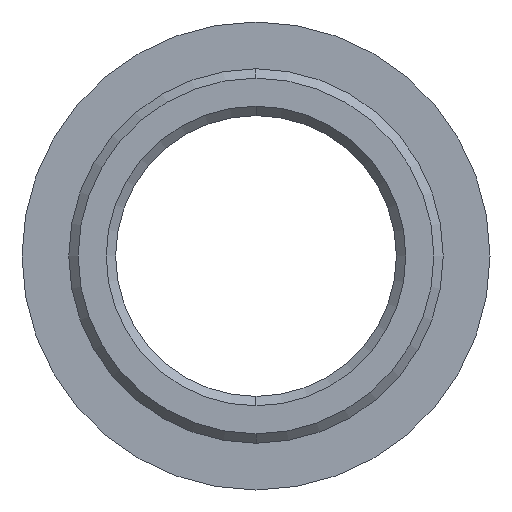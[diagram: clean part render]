
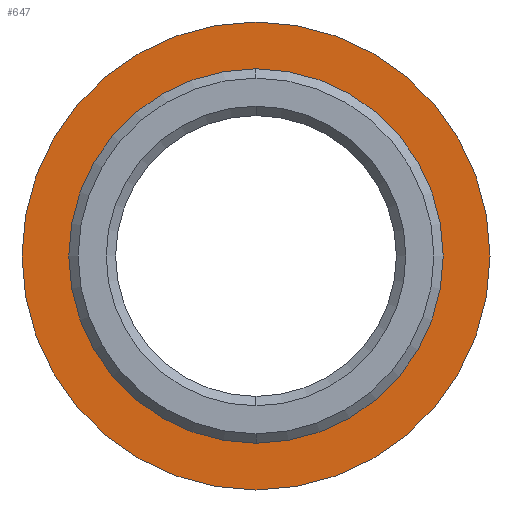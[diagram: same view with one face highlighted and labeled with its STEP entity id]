
A CAD part, left-side view. The second image highlights one B-rep face of the part: STEP entity #647.
In plain terms, the highlighted planar face has unit normal (-1, 0, 0).
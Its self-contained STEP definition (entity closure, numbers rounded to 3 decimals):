
#5 = ORIENTED_EDGE ( 'NONE', *, *, #581, .T. ) ;
#12 = EDGE_LOOP ( 'NONE', ( #21, #5 ) ) ;
#21 = ORIENTED_EDGE ( 'NONE', *, *, #641, .T. ) ;
#37 = VERTEX_POINT ( 'NONE', #206 ) ;
#73 = EDGE_LOOP ( 'NONE', ( #127, #139 ) ) ;
#78 = VERTEX_POINT ( 'NONE', #332 ) ;
#114 = VERTEX_POINT ( 'NONE', #420 ) ;
#127 = ORIENTED_EDGE ( 'NONE', *, *, #571, .F. ) ;
#139 = ORIENTED_EDGE ( 'NONE', *, *, #618, .F. ) ;
#153 = VERTEX_POINT ( 'NONE', #491 ) ;
#195 = CARTESIAN_POINT ( 'NONE',  ( 9., 0., 0. ) ) ;
#199 = DIRECTION ( 'NONE',  ( -1., 0., 0. ) ) ;
#201 = DIRECTION ( 'NONE',  ( 0., 0., 1. ) ) ;
#206 = CARTESIAN_POINT ( 'NONE',  ( 9., 0., -12.5 ) ) ;
#291 = CARTESIAN_POINT ( 'NONE',  ( 9., 0., 0. ) ) ;
#327 = DIRECTION ( 'NONE',  ( -1., 0., 0. ) ) ;
#328 = CARTESIAN_POINT ( 'NONE',  ( 9., 0., 0. ) ) ;
#332 = CARTESIAN_POINT ( 'NONE',  ( 9., 0., 12.5 ) ) ;
#350 = DIRECTION ( 'NONE',  ( 0., 0., 1. ) ) ;
#381 = DIRECTION ( 'NONE',  ( -1., 0., 0. ) ) ;
#383 = DIRECTION ( 'NONE',  ( 0., 0., 1. ) ) ;
#397 = CARTESIAN_POINT ( 'NONE',  ( 9., 9.5, 0. ) ) ;
#419 = PLANE ( 'NONE',  #708 ) ;
#420 = CARTESIAN_POINT ( 'NONE',  ( 9., 0., 9.5 ) ) ;
#424 = DIRECTION ( 'NONE',  ( -1., 0., 0. ) ) ;
#434 = FACE_BOUND ( 'NONE', #73, .T. ) ;
#437 = FACE_OUTER_BOUND ( 'NONE', #12, .T. ) ;
#451 = DIRECTION ( 'NONE',  ( 0., 0., 1. ) ) ;
#485 = DIRECTION ( 'NONE',  ( -1., 0., 0. ) ) ;
#486 = CARTESIAN_POINT ( 'NONE',  ( 9., 0., 0. ) ) ;
#488 = DIRECTION ( 'NONE',  ( 0., 0., 1. ) ) ;
#491 = CARTESIAN_POINT ( 'NONE',  ( 9., 0., -9.5 ) ) ;
#519 = CIRCLE ( 'NONE', #547, 9.5 ) ;
#526 = AXIS2_PLACEMENT_3D ( 'NONE', #291, #381, #383 ) ;
#532 = AXIS2_PLACEMENT_3D ( 'NONE', #486, #485, #488 ) ;
#547 = AXIS2_PLACEMENT_3D ( 'NONE', #328, #327, #350 ) ;
#569 = CIRCLE ( 'NONE', #526, 12.5 ) ;
#571 = EDGE_CURVE ( 'NONE', #114, #153, #519, .T. ) ;
#581 = EDGE_CURVE ( 'NONE', #37, #78, #569, .T. ) ;
#599 = CIRCLE ( 'NONE', #532, 9.5 ) ;
#618 = EDGE_CURVE ( 'NONE', #153, #114, #599, .T. ) ;
#641 = EDGE_CURVE ( 'NONE', #78, #37, #707, .T. ) ;
#647 = ADVANCED_FACE ( 'NONE', ( #437, #434 ), #419, .T. ) ;
#699 = AXIS2_PLACEMENT_3D ( 'NONE', #195, #199, #451 ) ;
#707 = CIRCLE ( 'NONE', #699, 12.5 ) ;
#708 = AXIS2_PLACEMENT_3D ( 'NONE', #397, #424, #201 ) ;
